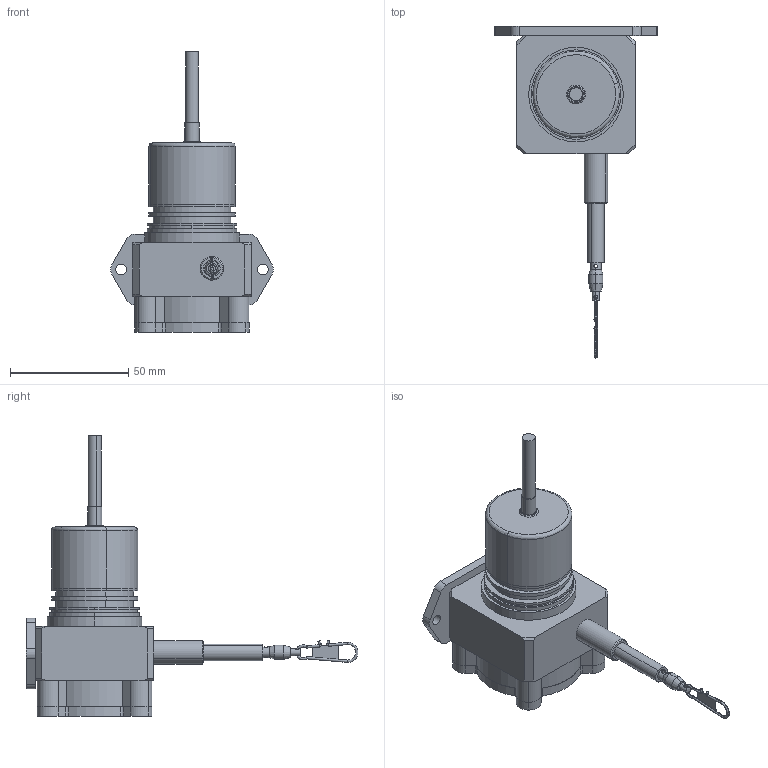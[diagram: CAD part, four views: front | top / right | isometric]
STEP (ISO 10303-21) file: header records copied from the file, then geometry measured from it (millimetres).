
FILE_DESCRIPTION (( 'STEP AP214' ), '1' );
FILE_NAME ('D8.6A1.0050.3641.XXXX.STEP', '2009-04-01T08:13:10', ( 'admin' ), ( 'Fritz Kübler GmbH' ), 'SwSTEP 2.0', 'SolidWorks 2008', '' );
FILE_SCHEMA (( 'AUTOMOTIVE_DESIGN' ));
Length unit declared in the file: millimetre
Products named in the file (1): D8.6A1.0050.3641.XXXX
Bounding box: 68.76 x 140.32 x 118.53 mm (x, y, z)
Volume: 82365.7 mm3; surface area: 46345.7 mm2
Topology: 11 solids, 11 shells, 373 faces, 923 edges, 572 vertices
Faces by surface type: cylinder 202, plane 110, cone 43, bspline 18
Entity records: 16859 total; most frequent: CARTESIAN_POINT 3693, DIRECTION 1959, ORIENTED_EDGE 1778, EDGE_CURVE 889, AXIS2_PLACEMENT_3D 780, VERTEX_POINT 572, EDGE_LOOP 459, CIRCLE 424
